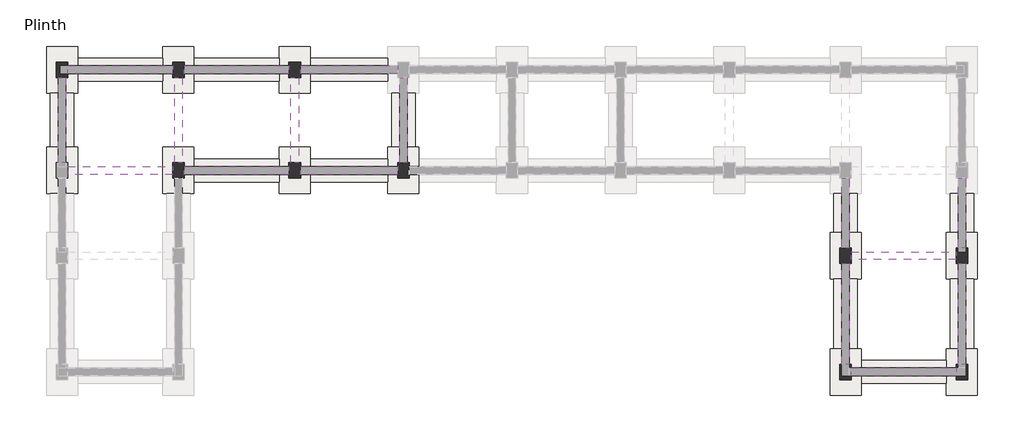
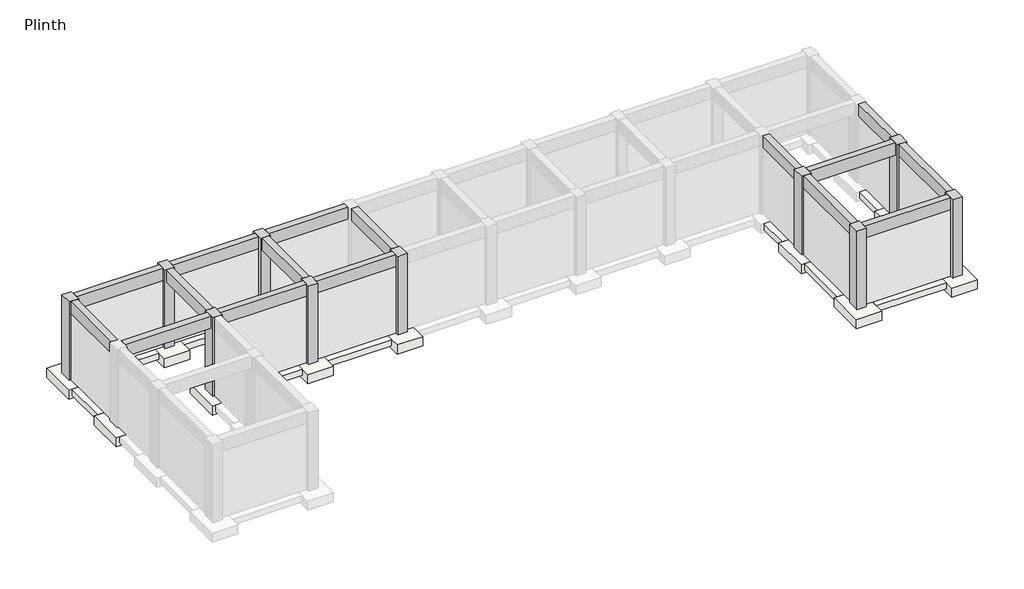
# One storey, part 2 of 3: 16 beams, 12 footings, 11 slabs, 10 columns.
"""IFC4 building model written with IfcOpenShell, lengths in millimetres."""

import ifcopenshell
import ifcopenshell.guid

model = None  # the IFC model being written
_history = None  # IfcOwnerHistory: only IFC2X3 demands one
_inside = {}  # id of a spatial element -> (the spatial element, [elements in it])
_under = {}  # id of a project, library or spatial element -> (it, [spatial elements below it])
_declared = {}  # id of a project -> (the project, [libraries it declares])
_typed = {}  # id of a type object -> (the type object, [elements of that type])
_made_of = {}  # id of a material, layer set ... -> (it, [elements and type objects made of it])


def new_model(schema):
    """Start an empty IFC model of exactly this schema.

    Asked for "IFC4X3", IfcOpenShell would pick the latest addendum, in which some entities
    have other attributes; the version numbers below select the first issue.
    IFC2X3 requires an IfcOwnerHistory on every rooted entity: one is made here for all.
    """
    global model, _history
    if schema == "IFC4X3":
        model = ifcopenshell.file(schema_version=(4, 3, 0, 0))
    else:
        model = ifcopenshell.file(schema=schema)
    _inside.clear()
    _under.clear()
    _declared.clear()
    _typed.clear()
    _made_of.clear()
    _history = None
    if model.schema == "IFC2X3":
        org = make("IfcOrganization", Name="unknown")
        user = make(
            "IfcPersonAndOrganization",
            ThePerson=make("IfcPerson", FamilyName="unknown"),
            TheOrganization=org,
        )
        app = make(
            "IfcApplication",
            ApplicationDeveloper=org,
            Version="unknown",
            ApplicationFullName="unknown",
            ApplicationIdentifier="unknown",
        )
        _history = make(
            "IfcOwnerHistory",
            OwningUser=user,
            OwningApplication=app,
            ChangeAction="ADDED",
            CreationDate=0,
        )
    return model


def make(cls, **values):
    """One entity of the class cls with the attributes given. An attribute that is None is left unset."""
    return model.create_entity(
        cls, **{name: value for name, value in values.items() if value is not None}
    )


def rooted(cls, **values):
    """An entity with a GlobalId (a new one), such as an element, a storey or a relation."""
    return make(cls, GlobalId=ifcopenshell.guid.new(), OwnerHistory=_history, **values)


def si_unit(unit_type, name, prefix=None):
    """IfcSIUnit, for example si_unit("LENGTHUNIT", "METRE", prefix="MILLI")."""
    return make("IfcSIUnit", UnitType=unit_type, Prefix=prefix, Name=name)


def assignment(units):
    """IfcUnitAssignment: the units of a project."""
    return None if units is None else make("IfcUnitAssignment", Units=units)


def point(xyz):
    """IfcCartesianPoint."""
    return None if xyz is None else make("IfcCartesianPoint", Coordinates=xyz)


def direction(xyz):
    """IfcDirection."""
    return None if xyz is None else make("IfcDirection", DirectionRatios=xyz)


def frame(location, z_axis=None, x_axis=None):
    """IfcAxis2Placement3D, a coordinate frame: its origin and axes. An axis left out is left unset."""
    return make(
        "IfcAxis2Placement3D",
        Location=point(location),
        Axis=direction(z_axis),
        RefDirection=direction(x_axis),
    )


def origin():
    """The frame at (0, 0, 0) with its axes left unset."""
    return frame((0.0, 0.0, 0.0))


def origin_with_axes():
    """The frame at (0, 0, 0) with the z axis (0, 0, 1) and the x axis (1, 0, 0) written out."""
    return frame((0.0, 0.0, 0.0), z_axis=(0.0, 0.0, 1.0), x_axis=(1.0, 0.0, 0.0))


def place(relative_to, where):
    """IfcLocalPlacement: puts the frame where relative to a parent placement (None: the world)."""
    return make(
        "IfcLocalPlacement", PlacementRelTo=relative_to, RelativePlacement=where
    )


def context(
    kind, dimensions, precision=None, world=None, true_north=None, identifier=None
):
    """IfcGeometricRepresentationContext, for example the 3D "Model" context."""
    return make(
        "IfcGeometricRepresentationContext",
        ContextIdentifier=identifier,
        ContextType=kind,
        CoordinateSpaceDimension=dimensions,
        Precision=precision,
        WorldCoordinateSystem=world,
        TrueNorth=true_north,
    )


def project(units=None, contexts=None):
    """IfcProject with its units and contexts."""
    return rooted(
        "IfcProject",
        Name="project",
        RepresentationContexts=contexts,
        UnitsInContext=assignment(units),
    )


def spatial(cls, under=None, at=None, **own):
    """A site, building, storey or space (cls), placed at a placement, below another one or the project."""
    s = rooted(cls, ObjectPlacement=at, **own)
    if under is not None:
        _under.setdefault(under.id(), (under, []))[1].append(s)
    return s


def polyline(points):
    """IfcPolyline through the points."""
    return make("IfcPolyline", Points=[point(p) for p in points])


def outline(outer, holes=None, kind="AREA"):
    """IfcArbitraryClosedProfileDef: a profile drawn as a closed curve; with holes, ...WithVoids."""
    if holes is None:
        return make("IfcArbitraryClosedProfileDef", ProfileType=kind, OuterCurve=outer)
    return make(
        "IfcArbitraryProfileDefWithVoids",
        ProfileType=kind,
        OuterCurve=outer,
        InnerCurves=holes,
    )


def extrude(swept, where, along, depth):
    """IfcExtrudedAreaSolid: the profile swept, set in the frame where, extruded along a direction by depth."""
    return make(
        "IfcExtrudedAreaSolid",
        SweptArea=swept,
        Position=where,
        ExtrudedDirection=direction(along),
        Depth=depth,
    )


def faces_of(points, faces, orient=None, outer=None):
    """IfcFace entities. A face is a list of loops; a loop is a list of indices into points, from 0.

    orient and outer hold one flag for each loop. By default every Orientation is true, the
    first loop of a face is its IfcFaceOuterBound and the others are IfcFaceBound.
    """
    made = []
    for i, loops in enumerate(faces):
        bounds = []
        for j, loop in enumerate(loops):
            is_outer = j == 0 if outer is None else outer[i][j]
            bounds.append(
                make(
                    "IfcFaceOuterBound" if is_outer else "IfcFaceBound",
                    Bound=make("IfcPolyLoop", Polygon=[points[k] for k in loop]),
                    Orientation=True if orient is None else orient[i][j],
                )
            )
        made.append(make("IfcFace", Bounds=bounds))
    return made


def faceted_brep(points, faces, orient=None, outer=None, voids=None):
    """IfcFacetedBrep: a solid bounded by flat faces; with voids (closed shells), ...WithVoids."""
    shared = [point(p) for p in points]
    hull = make("IfcClosedShell", CfsFaces=faces_of(shared, faces, orient, outer))
    if voids is None:
        return make("IfcFacetedBrep", Outer=hull)
    return make(
        "IfcFacetedBrepWithVoids",
        Outer=hull,
        Voids=[
            make(cls, CfsFaces=faces_of(shared, fs, o, b)) for cls, fs, o, b in voids
        ],
    )


def shape(context_of_items, identifier, shape_type, items):
    """IfcShapeRepresentation: the items that make up one representation, for example the "Body"."""
    return make(
        "IfcShapeRepresentation",
        ContextOfItems=context_of_items,
        RepresentationIdentifier=identifier,
        RepresentationType=shape_type,
        Items=items,
    )


def made_of(thing, what):
    """Note that an element or type object is made of a material, layer set ...; save() writes the relation."""
    if what is not None:
        _made_of.setdefault(what.id(), (what, []))[1].append(thing)
    return thing


def element(
    cls,
    number,
    at=None,
    inside=None,
    cuts=None,
    type_object=None,
    material=None,
    context=None,
    identifier="Body",
    shape_type=None,
    held_by="IfcProductDefinitionShape",
    body=None,
    shapes=None,
    **own,
):
    """One element of the class cls, such as IfcWall. Its Tag is "e" and its number.

    at: its placement. inside: the storey or other place that contains it. cuts: it is an
    opening in that element (IfcRelVoidsElement). A single representation is given by context,
    identifier, shape_type and body (its items); several are given by shapes. held_by: the class
    of the entity that holds the representations. save() writes the other relations.
    """
    e = rooted(cls, Tag="e%d" % number, ObjectPlacement=at, **own)
    if body is not None:
        shapes = [shape(context, identifier, shape_type, body)]
    if shapes is not None:
        e.Representation = make(held_by, Representations=shapes)
    if inside is not None:
        _inside.setdefault(inside.id(), (inside, []))[1].append(e)
    if cuts is not None:
        rooted(
            "IfcRelVoidsElement", RelatingBuildingElement=cuts, RelatedOpeningElement=e
        )
    if type_object is not None:
        _typed.setdefault(type_object.id(), (type_object, []))[1].append(e)
    return made_of(e, material)


def aggregate(whole, parts):
    """IfcRelAggregates: a whole, such as a stair, and the parts it consists of."""
    return rooted("IfcRelAggregates", RelatingObject=whole, RelatedObjects=parts)


def save(model, path):
    """Write the relations noted so far, then the file.

    IfcRelAggregates (storeys below a building ...), IfcRelContainedInSpatialStructure (elements
    in a storey), IfcRelDefinesByType, IfcRelAssociatesMaterial and IfcRelDeclares: one each for
    every whole, place, type object, material and project.
    """
    for whole, parts in _under.values():
        aggregate(whole, parts)
    for where, things in _inside.values():
        rooted(
            "IfcRelContainedInSpatialStructure",
            RelatedElements=things,
            RelatingStructure=where,
        )
    for kind, things in _typed.values():
        rooted("IfcRelDefinesByType", RelatedObjects=things, RelatingType=kind)
    for what, things in _made_of.values():
        rooted("IfcRelAssociatesMaterial", RelatedObjects=things, RelatingMaterial=what)
    for by, libraries in _declared.values():
        rooted("IfcRelDeclares", RelatingContext=by, RelatedDefinitions=libraries)
    model.write(path)


model = new_model("IFC4")

# Units and contexts
model_context = context("Model", 3, world=origin())
ifc_project = project(units=[si_unit("LENGTHUNIT", "METRE", prefix="MILLI")], contexts=[model_context])

# Site, building, storey
site = spatial("IfcSite", under=ifc_project)
building = spatial("IfcBuilding", under=site)
storey = spatial("IfcBuildingStorey", under=building, Name="Plinth", Elevation=304.8)

# Beams
placement = place(None, origin())
element("IfcBeam", 1, ObjectType="Concrete-Rectangular Beam : 12 x 24", at=placement, inside=storey, context=model_context, shape_type="SweptSolid", body=[
    extrude(outline(polyline([(-7030.7781752, 13902.9470864), (-7030.7781752, 14207.7470864), (-2915.9781752, 14207.7470864), (-2915.9781752, 13902.9470864), (-7030.7781752, 13902.9470864)])), frame((0.0, 0.0, 3657.6), z_axis=(0.0, 0.0, 1.0), x_axis=(1.0, 0.0, 0.0)), (0.0, 0.0, 1.0), 609.6),
])
element("IfcBeam", 2, ObjectType="Concrete-Rectangular Beam : 12 x 24", at=placement, inside=storey, context=model_context, shape_type="SweptSolid", body=[
    extrude(outline(polyline([(-2839.7781752, 17103.3470864), (-2534.9781752, 17103.3470864), (-2534.9781752, 14360.1470864), (-2839.7781752, 14360.1470864), (-2839.7781752, 17103.3470864)])), frame((0.0, 0.0, 3657.6), z_axis=(0.0, 0.0, 1.0), x_axis=(1.0, 0.0, 0.0)), (0.0, 0.0, 1.0), 609.6),
])
element("IfcBeam", 3, ObjectType="Concrete-Rectangular Beam : 12 x 24", at=placement, inside=storey, context=model_context, shape_type="SweptSolid", body=[
    extrude(outline(polyline([(-2839.7781752, 13750.5470864), (-2534.9781752, 13750.5470864), (-2534.9781752, 9788.1470864), (-2839.7781752, 9788.1470864), (-2839.7781752, 13750.5470864)])), frame((0.0, 0.0, 3657.6), z_axis=(0.0, 0.0, 1.0), x_axis=(1.0, 0.0, 0.0)), (0.0, 0.0, 1.0), 609.6),
])
element("IfcBeam", 4, ObjectType="Concrete-Rectangular Beam : 12 x 24", at=placement, inside=storey, context=model_context, shape_type="SweptSolid", body=[
    extrude(outline(polyline([(-7411.7781752, 17103.3470864), (-7106.9781752, 17103.3470864), (-7106.9781752, 14360.1470864), (-7411.7781752, 14360.1470864), (-7411.7781752, 17103.3470864)])), frame((0.0, 0.0, 3657.6), z_axis=(0.0, 0.0, 1.0), x_axis=(1.0, 0.0, 0.0)), (0.0, 0.0, 1.0), 609.6),
])
element("IfcBeam", 5, ObjectType="Concrete-Rectangular Beam : 12 x 24", at=placement, inside=storey, context=model_context, shape_type="SweptSolid", body=[
    extrude(outline(polyline([(-7411.7781752, 13750.5470864), (-7106.9781752, 13750.5470864), (-7106.9781752, 9788.1470864), (-7411.7781752, 9788.1470864), (-7411.7781752, 13750.5470864)])), frame((0.0, 0.0, 3657.6), z_axis=(0.0, 0.0, 1.0), x_axis=(1.0, 0.0, 0.0)), (0.0, 0.0, 1.0), 609.6),
])
element("IfcBeam", 6, ObjectType="Concrete-Rectangular Beam : 12 x 24", at=placement, inside=storey, context=model_context, shape_type="SweptSolid", body=[
    extrude(outline(polyline([(-7030.7781752, 9330.9470864), (-7030.7781752, 9635.7470864), (-2915.9781752, 9635.7470864), (-2915.9781752, 9330.9470864), (-7030.7781752, 9330.9470864)])), frame((0.0, 0.0, 3657.6), z_axis=(0.0, 0.0, 1.0), x_axis=(1.0, 0.0, 0.0)), (0.0, 0.0, 1.0), 609.6),
])
element("IfcBeam", 7, ObjectType="Concrete-Rectangular Beam : 12 x 24", at=placement, inside=storey, context=model_context, shape_type="SweptSolid", body=[
    extrude(outline(polyline([(-28747.7781752, 17712.9470864), (-29052.5781752, 17712.9470864), (-29052.5781752, 21065.7470864), (-28747.7781752, 21065.7470864), (-28747.7781752, 17712.9470864)])), frame((0.0, 0.0, 3657.6), z_axis=(0.0, 0.0, 1.0), x_axis=(1.0, 0.0, 0.0)), (0.0, 0.0, 1.0), 609.6),
])
element("IfcBeam", 8, ObjectType="Concrete-Rectangular Beam : 12 x 24", at=placement, inside=storey, context=model_context, shape_type="SweptSolid", body=[
    extrude(outline(polyline([(-33624.5781752, 21065.7470864), (-33319.7781752, 21065.7470864), (-33319.7781752, 17712.9470864), (-33624.5781752, 17712.9470864), (-33624.5781752, 21065.7470864)])), frame((0.0, 0.0, 3657.6), z_axis=(0.0, 0.0, 1.0), x_axis=(1.0, 0.0, 0.0)), (0.0, 0.0, 1.0), 609.6),
])
element("IfcBeam", 9, ObjectType="Concrete-Rectangular Beam : 12 x 24", at=placement, inside=storey, context=model_context, shape_type="SweptSolid", body=[
    extrude(outline(polyline([(-33700.7781752, 17560.5470864), (-33700.7781752, 17255.7470864), (-37815.5781752, 17255.7470864), (-37815.5781752, 17560.5470864), (-33700.7781752, 17560.5470864)])), frame((0.0, 0.0, 3657.6), z_axis=(0.0, 0.0, 1.0), x_axis=(1.0, 0.0, 0.0)), (0.0, 0.0, 1.0), 609.6),
])
element("IfcBeam", 10, ObjectType="Concrete-Rectangular Beam : 12 x 24", at=placement, inside=storey, context=model_context, shape_type="SweptSolid", body=[
    extrude(outline(polyline([(-24861.5781752, 21522.9470864), (-24861.5781752, 21218.1470864), (-28671.5781752, 21218.1470864), (-28671.5781752, 21522.9470864), (-24861.5781752, 21522.9470864)])), frame((0.0, 0.0, 3657.6), z_axis=(0.0, 0.0, 1.0), x_axis=(1.0, 0.0, 0.0)), (0.0, 0.0, 1.0), 609.6),
])
element("IfcBeam", 11, ObjectType="Concrete-Rectangular Beam : 12 x 24", at=placement, inside=storey, context=model_context, shape_type="SweptSolid", body=[
    extrude(outline(polyline([(-29128.7781752, 21522.9470864), (-29128.7781752, 21218.1470864), (-33243.5781752, 21218.1470864), (-33243.5781752, 21522.9470864), (-29128.7781752, 21522.9470864)])), frame((0.0, 0.0, 3657.6), z_axis=(0.0, 0.0, 1.0), x_axis=(1.0, 0.0, 0.0)), (0.0, 0.0, 1.0), 609.6),
])
element("IfcBeam", 12, ObjectType="Concrete-Rectangular Beam : 12 x 24", at=placement, inside=storey, context=model_context, shape_type="SweptSolid", body=[
    extrude(outline(polyline([(-33700.7781752, 21522.9470864), (-33700.7781752, 21218.1470864), (-37815.5781752, 21218.1470864), (-37815.5781752, 21522.9470864), (-33700.7781752, 21522.9470864)])), frame((0.0, 0.0, 3657.6), z_axis=(0.0, 0.0, 1.0), x_axis=(1.0, 0.0, 0.0)), (0.0, 0.0, 1.0), 609.6),
])
element("IfcBeam", 13, ObjectType="Concrete-Rectangular Beam : 12 x 24", at=placement, inside=storey, context=model_context, shape_type="SweptSolid", body=[
    extrude(outline(polyline([(-24785.3781752, 21065.7470864), (-24480.5781752, 21065.7470864), (-24480.5781752, 17712.9470864), (-24785.3781752, 17712.9470864), (-24785.3781752, 21065.7470864)])), frame((0.0, 0.0, 3657.6), z_axis=(0.0, 0.0, 1.0), x_axis=(1.0, 0.0, 0.0)), (0.0, 0.0, 1.0), 609.6),
])
element("IfcBeam", 14, ObjectType="Concrete-Rectangular Beam : 12 x 24", at=placement, inside=storey, context=model_context, shape_type="SweptSolid", body=[
    extrude(outline(polyline([(-38196.5781752, 21065.7470864), (-37891.7781752, 21065.7470864), (-37891.7781752, 17712.9470864), (-38196.5781752, 17712.9470864), (-38196.5781752, 21065.7470864)])), frame((0.0, 0.0, 3657.6), z_axis=(0.0, 0.0, 1.0), x_axis=(1.0, 0.0, 0.0)), (0.0, 0.0, 1.0), 609.6),
])
element("IfcBeam", 15, ObjectType="Concrete-Rectangular Beam : 12 x 24", at=placement, inside=storey, context=model_context, shape_type="SweptSolid", body=[
    extrude(outline(polyline([(-29128.7781752, 17560.5470864), (-29128.7781752, 17255.7470864), (-33243.5781752, 17255.7470864), (-33243.5781752, 17560.5470864), (-29128.7781752, 17560.5470864)])), frame((0.0, 0.0, 3657.6), z_axis=(0.0, 0.0, 1.0), x_axis=(1.0, 0.0, 0.0)), (0.0, 0.0, 1.0), 609.6),
])
element("IfcBeam", 16, ObjectType="Concrete-Rectangular Beam : 12 x 24", at=placement, inside=storey, context=model_context, shape_type="SweptSolid", body=[
    extrude(outline(polyline([(-24861.5781752, 17560.5470864), (-24861.5781752, 17255.7470864), (-28671.5781752, 17255.7470864), (-28671.5781752, 17560.5470864), (-24861.5781752, 17560.5470864)])), frame((0.0, 0.0, 3657.6), z_axis=(0.0, 0.0, 1.0), x_axis=(1.0, 0.0, 0.0)), (0.0, 0.0, 1.0), 609.6),
])

# Columns
element("IfcColumn", 17, ObjectType="Concrete-Rectangular-Column : 18 x 24", at=placement, inside=storey, context=model_context, shape_type="Brep", body=[
    faceted_brep([(-7030.7781752, 14360.1470864, 304.8), (-7030.7781752, 13750.5470864, 304.8), (-7106.9781752, 13750.5470864, 304.8), (-7411.7781752, 13750.5470864, 304.8), (-7487.9781752, 13750.5470864, 304.8), (-7487.9781752, 14360.1470864, 304.8), (-7411.7781752, 14360.1470864, 304.8), (-7106.9781752, 14360.1470864, 304.8), (-7030.7781752, 14360.1470864, 4267.2), (-7030.7781752, 13750.5470864, 4267.2), (-7487.9781752, 13750.5470864, 4267.2), (-7487.9781752, 14360.1470864, 4267.2)], [[[0, 1, 2, 3, 4, 5, 6, 7]], [[8, 9, 1, 0]], [[9, 10, 4, 3, 2, 1]], [[10, 11, 5, 4]], [[11, 8, 0, 7, 6, 5]], [[8, 11, 10, 9]]]),
])
element("IfcColumn", 18, ObjectType="Concrete-Rectangular-Column : 18 x 24", at=placement, inside=storey, context=model_context, shape_type="Brep", body=[
    faceted_brep([(-2458.7781752, 14360.1470864, 304.8), (-2458.7781752, 13750.5470864, 304.8), (-2534.9781752, 13750.5470864, 304.8), (-2839.7781752, 13750.5470864, 304.8), (-2915.9781752, 13750.5470864, 304.8), (-2915.9781752, 14360.1470864, 304.8), (-2839.7781752, 14360.1470864, 304.8), (-2839.7781752, 14207.7470864, 304.8), (-2534.9781752, 14207.7470864, 304.8), (-2534.9781752, 14360.1470864, 304.8), (-2458.7781752, 14360.1470864, 4267.2), (-2458.7781752, 13750.5470864, 4267.2), (-2915.9781752, 13750.5470864, 4267.2), (-2915.9781752, 14360.1470864, 4267.2), (-2534.9781752, 14360.1470864, 3657.6), (-2839.7781752, 14360.1470864, 3657.6), (-2839.7781752, 14207.7470864, 3657.6), (-2534.9781752, 14207.7470864, 3657.6)], [[[0, 1, 2, 3, 4, 5, 6, 7, 8, 9]], [[1, 0, 10, 11]], [[4, 3, 2, 1, 11, 12]], [[5, 4, 12, 13]], [[10, 0, 9, 14, 15, 6, 5, 13]], [[11, 10, 13, 12]], [[16, 7, 6, 15]], [[17, 16, 15, 14]], [[17, 8, 7, 16]], [[8, 17, 14, 9]]]),
])
element("IfcColumn", 19, ObjectType="Concrete-Rectangular-Column : 18 x 24", at=placement, inside=storey, context=model_context, shape_type="Brep", body=[
    faceted_brep([(-7106.9781752, 9788.1470864, 304.8), (-7030.7781752, 9788.1470864, 304.8), (-7030.7781752, 9635.7470864, 304.8), (-7106.9781752, 9635.7470864, 304.8), (-7030.7781752, 9788.1470864, 4267.2), (-7030.7781752, 9178.5470864, 4267.2), (-7030.7781752, 9178.5470864, 304.8), (-7030.7781752, 9330.9470864, 304.8), (-7030.7781752, 9330.9470864, 3657.6), (-7030.7781752, 9635.7470864, 3657.6), (-7487.9781752, 9178.5470864, 304.8), (-7487.9781752, 9178.5470864, 4267.2), (-7487.9781752, 9788.1470864, 304.8), (-7487.9781752, 9788.1470864, 4267.2), (-7106.9781752, 9788.1470864, 3657.6), (-7411.7781752, 9788.1470864, 3657.6), (-7411.7781752, 9788.1470864, 304.8), (-7411.7781752, 9330.9470864, 3657.6), (-7411.7781752, 9330.9470864, 304.8), (-7106.9781752, 9635.7470864, 3657.6), (-7106.9781752, 9330.9470864, 3657.6), (-7106.9781752, 9330.9470864, 304.8)], [[[0, 1, 2, 3]], [[4, 5, 6, 7, 8, 9, 2, 1]], [[10, 6, 5, 11]], [[12, 10, 11, 13]], [[4, 1, 0, 14, 15, 16, 12, 13]], [[5, 4, 13, 11]], [[17, 18, 16, 15]], [[14, 0, 3, 19]], [[18, 17, 20, 8, 7, 21]], [[9, 19, 3, 2]], [[8, 20, 17, 15, 14, 19, 9]], [[6, 10, 12, 16, 18, 21, 7]]]),
])
element("IfcColumn", 20, ObjectType="Concrete-Rectangular-Column : 18 x 24", at=placement, inside=storey, context=model_context, shape_type="Brep", body=[
    faceted_brep([(-2915.9781752, 9635.7470864, 304.8), (-2915.9781752, 9788.1470864, 304.8), (-2839.7781752, 9788.1470864, 304.8), (-2839.7781752, 9635.7470864, 304.8), (-2458.7781752, 9178.5470864, 304.8), (-2458.7781752, 9788.1470864, 304.8), (-2458.7781752, 9788.1470864, 4267.2), (-2458.7781752, 9178.5470864, 4267.2), (-2915.9781752, 9178.5470864, 304.8), (-2915.9781752, 9178.5470864, 4267.2), (-2915.9781752, 9788.1470864, 4267.2), (-2915.9781752, 9635.7470864, 3657.6), (-2915.9781752, 9330.9470864, 3657.6), (-2915.9781752, 9330.9470864, 304.8), (-2534.9781752, 9788.1470864, 304.8), (-2534.9781752, 9788.1470864, 3657.6), (-2839.7781752, 9788.1470864, 3657.6), (-2534.9781752, 9330.9470864, 3657.6), (-2534.9781752, 9330.9470864, 304.8), (-2839.7781752, 9635.7470864, 3657.6), (-2534.9781752, 9635.7470864, 3657.6), (-2534.9781752, 9635.7470864, 304.8)], [[[0, 1, 2, 3]], [[4, 5, 6, 7]], [[8, 4, 7, 9]], [[8, 9, 10, 1, 0, 11, 12, 13]], [[6, 5, 14, 15, 16, 2, 1, 10]], [[7, 6, 10, 9]], [[12, 17, 18, 13]], [[11, 0, 3, 19]], [[17, 12, 11, 19, 16, 15, 20]], [[18, 17, 20, 15, 14, 21]], [[16, 19, 3, 2]], [[5, 4, 8, 13, 18, 21, 14]]]),
])
element("IfcColumn", 21, ObjectType="Concrete-Rectangular-Column : 18 x 24", at=placement, inside=storey, context=model_context, shape_type="Brep", body=[
    faceted_brep([(-29128.7781752, 21675.3470864, 304.8), (-28671.5781752, 21675.3470864, 304.8), (-28671.5781752, 21522.9470864, 304.8), (-28671.5781752, 21218.1470864, 304.8), (-28671.5781752, 21065.7470864, 304.8), (-29128.7781752, 21065.7470864, 304.8), (-29128.7781752, 21218.1470864, 304.8), (-29128.7781752, 21522.9470864, 304.8), (-29128.7781752, 21675.3470864, 4267.2), (-29128.7781752, 21065.7470864, 4267.2), (-28671.5781752, 21065.7470864, 4267.2), (-28671.5781752, 21675.3470864, 4267.2)], [[[0, 1, 2, 3, 4, 5, 6, 7]], [[8, 0, 7, 6, 5, 9]], [[9, 5, 4, 10]], [[10, 4, 3, 2, 1, 11]], [[11, 1, 0, 8]], [[8, 9, 10, 11]]]),
])
element("IfcColumn", 22, ObjectType="Concrete-Rectangular-Column : 18 x 24", at=placement, inside=storey, context=model_context, shape_type="Brep", body=[
    faceted_brep([(-33700.7781752, 21675.3470864, 304.8), (-33243.5781752, 21675.3470864, 304.8), (-33243.5781752, 21522.9470864, 304.8), (-33243.5781752, 21218.1470864, 304.8), (-33243.5781752, 21065.7470864, 304.8), (-33700.7781752, 21065.7470864, 304.8), (-33700.7781752, 21218.1470864, 304.8), (-33700.7781752, 21522.9470864, 304.8), (-33700.7781752, 21675.3470864, 4267.2), (-33700.7781752, 21065.7470864, 4267.2), (-33243.5781752, 21065.7470864, 4267.2), (-33243.5781752, 21675.3470864, 4267.2)], [[[0, 1, 2, 3, 4, 5, 6, 7]], [[8, 0, 7, 6, 5, 9]], [[9, 5, 4, 10]], [[10, 4, 3, 2, 1, 11]], [[11, 1, 0, 8]], [[8, 9, 10, 11]]]),
])
element("IfcColumn", 23, ObjectType="Concrete-Rectangular-Column : 18 x 24", at=placement, inside=storey, context=model_context, shape_type="Brep", body=[
    faceted_brep([(-38272.7781752, 21065.7470864, 304.8), (-38272.7781752, 21675.3470864, 304.8), (-37815.5781752, 21675.3470864, 304.8), (-37815.5781752, 21522.9470864, 304.8), (-38120.3781752, 21522.9470864, 304.8), (-38120.3781752, 21218.1470864, 304.8), (-37815.5781752, 21218.1470864, 304.8), (-37815.5781752, 21065.7470864, 304.8), (-37891.7781752, 21065.7470864, 304.8), (-38196.5781752, 21065.7470864, 304.8), (-38272.7781752, 21065.7470864, 4267.2), (-38272.7781752, 21675.3470864, 4267.2), (-37815.5781752, 21065.7470864, 4267.2), (-37815.5781752, 21218.1470864, 3657.6), (-37815.5781752, 21522.9470864, 3657.6), (-37815.5781752, 21675.3470864, 4267.2), (-38120.3781752, 21522.9470864, 3657.6), (-38120.3781752, 21218.1470864, 3657.6)], [[[0, 1, 2, 3, 4, 5, 6, 7, 8, 9]], [[1, 0, 10, 11]], [[0, 9, 8, 7, 12, 10]], [[12, 7, 6, 13, 14, 3, 2, 15]], [[2, 1, 11, 15]], [[11, 10, 12, 15]], [[16, 4, 3, 14]], [[5, 17, 13, 6]], [[4, 16, 17, 5]], [[17, 16, 14, 13]]]),
])
element("IfcColumn", 24, ObjectType="Concrete-Rectangular-Column : 18 x 24", at=placement, inside=storey, context=model_context, shape_type="Brep", body=[
    faceted_brep([(-24861.5781752, 17712.9470864, 304.8), (-24785.3781752, 17712.9470864, 304.8), (-24480.5781752, 17712.9470864, 304.8), (-24404.3781752, 17712.9470864, 304.8), (-24404.3781752, 17560.5470864, 304.8), (-24404.3781752, 17255.7470864, 304.8), (-24404.3781752, 17103.3470864, 304.8), (-24861.5781752, 17103.3470864, 304.8), (-24861.5781752, 17255.7470864, 304.8), (-24861.5781752, 17560.5470864, 304.8), (-24861.5781752, 17712.9470864, 4267.2), (-24861.5781752, 17103.3470864, 4267.2), (-24404.3781752, 17103.3470864, 4267.2), (-24404.3781752, 17712.9470864, 4267.2)], [[[0, 1, 2, 3, 4, 5, 6, 7, 8, 9]], [[10, 0, 9, 8, 7, 11]], [[11, 7, 6, 12]], [[12, 6, 5, 4, 3, 13]], [[13, 3, 2, 1, 0, 10]], [[10, 11, 12, 13]]]),
])
element("IfcColumn", 25, ObjectType="Concrete-Rectangular-Column : 18 x 24", at=placement, inside=storey, context=model_context, shape_type="Brep", body=[
    faceted_brep([(-29128.7781752, 17712.9470864, 304.8), (-28671.5781752, 17712.9470864, 304.8), (-28671.5781752, 17560.5470864, 304.8), (-28671.5781752, 17255.7470864, 304.8), (-28671.5781752, 17103.3470864, 304.8), (-29128.7781752, 17103.3470864, 304.8), (-29128.7781752, 17255.7470864, 304.8), (-29128.7781752, 17560.5470864, 304.8), (-29128.7781752, 17712.9470864, 4267.2), (-29128.7781752, 17103.3470864, 4267.2), (-28671.5781752, 17103.3470864, 4267.2), (-28671.5781752, 17712.9470864, 4267.2)], [[[0, 1, 2, 3, 4, 5, 6, 7]], [[8, 0, 7, 6, 5, 9]], [[9, 5, 4, 10]], [[10, 4, 3, 2, 1, 11]], [[11, 1, 0, 8]], [[8, 9, 10, 11]]]),
])
element("IfcColumn", 26, ObjectType="Concrete-Rectangular-Column : 18 x 24", at=placement, inside=storey, context=model_context, shape_type="Brep", body=[
    faceted_brep([(-33700.7781752, 17712.9470864, 304.8), (-33243.5781752, 17712.9470864, 304.8), (-33243.5781752, 17560.5470864, 304.8), (-33243.5781752, 17255.7470864, 304.8), (-33243.5781752, 17103.3470864, 304.8), (-33319.7781752, 17103.3470864, 304.8), (-33624.5781752, 17103.3470864, 304.8), (-33700.7781752, 17103.3470864, 304.8), (-33700.7781752, 17712.9470864, 4267.2), (-33700.7781752, 17103.3470864, 4267.2), (-33243.5781752, 17103.3470864, 4267.2), (-33243.5781752, 17712.9470864, 4267.2)], [[[0, 1, 2, 3, 4, 5, 6, 7]], [[8, 0, 7, 9]], [[9, 7, 6, 5, 4, 10]], [[10, 4, 3, 2, 1, 11]], [[11, 1, 0, 8]], [[8, 9, 10, 11]]]),
])

# Footings
element("IfcFooting", 27, ObjectType="Bearing Footing - 36\" x 12\"", at=placement, inside=storey, context=model_context, shape_type="SweptSolid", body=[
    extrude(outline(polyline([(-3144.5781752, 16493.7470864), (-2230.1781752, 16493.7470864), (-2230.1781752, 14969.7470864), (-3144.5781752, 14969.7470864), (-3144.5781752, 16493.7470864)])), origin_with_axes(), (0.0, 0.0, 1.0), 304.8),
])
element("IfcFooting", 28, ObjectType="Bearing Footing - 36\" x 12\"", at=placement, inside=storey, context=model_context, shape_type="SweptSolid", body=[
    extrude(outline(polyline([(-3144.5781752, 13140.9470864), (-2230.1781752, 13140.9470864), (-2230.1781752, 10397.7470864), (-3144.5781752, 10397.7470864), (-3144.5781752, 13140.9470864)])), origin_with_axes(), (0.0, 0.0, 1.0), 304.8),
])
element("IfcFooting", 29, ObjectType="Bearing Footing - 36\" x 12\"", at=placement, inside=storey, context=model_context, shape_type="SweptSolid", body=[
    extrude(outline(polyline([(-6649.7781752, 9026.1470864), (-6649.7781752, 9940.5470864), (-3296.9781752, 9940.5470864), (-3296.9781752, 9026.1470864), (-6649.7781752, 9026.1470864)])), origin_with_axes(), (0.0, 0.0, 1.0), 304.8),
])
element("IfcFooting", 30, ObjectType="Bearing Footing - 36\" x 12\"", at=placement, inside=storey, context=model_context, shape_type="SweptSolid", body=[
    extrude(outline(polyline([(-7716.5781752, 13140.9470864), (-6802.1781752, 13140.9470864), (-6802.1781752, 10397.7470864), (-7716.5781752, 10397.7470864), (-7716.5781752, 13140.9470864)])), origin_with_axes(), (0.0, 0.0, 1.0), 304.8),
])
element("IfcFooting", 31, ObjectType="Bearing Footing - 36\" x 12\"", at=placement, inside=storey, context=model_context, shape_type="SweptSolid", body=[
    extrude(outline(polyline([(-7716.5781752, 16493.7470864), (-6802.1781752, 16493.7470864), (-6802.1781752, 14969.7470864), (-7716.5781752, 14969.7470864), (-7716.5781752, 16493.7470864)])), origin_with_axes(), (0.0, 0.0, 1.0), 304.8),
])
element("IfcFooting", 32, ObjectType="Bearing Footing - 36\" x 12\"", at=placement, inside=storey, context=model_context, shape_type="SweptSolid", body=[
    extrude(outline(polyline([(-25242.5781752, 21827.7470864), (-25242.5781752, 20913.3470864), (-28290.5781752, 20913.3470864), (-28290.5781752, 21827.7470864), (-25242.5781752, 21827.7470864)])), origin_with_axes(), (0.0, 0.0, 1.0), 304.8),
])
element("IfcFooting", 33, ObjectType="Bearing Footing - 36\" x 12\"", at=placement, inside=storey, context=model_context, shape_type="SweptSolid", body=[
    extrude(outline(polyline([(-29509.7781752, 21827.7470864), (-29509.7781752, 20913.3470864), (-32862.5781752, 20913.3470864), (-32862.5781752, 21827.7470864), (-29509.7781752, 21827.7470864)])), origin_with_axes(), (0.0, 0.0, 1.0), 304.8),
])
element("IfcFooting", 34, ObjectType="Bearing Footing - 36\" x 12\"", at=placement, inside=storey, context=model_context, shape_type="SweptSolid", body=[
    extrude(outline(polyline([(-34081.7781752, 21827.7470864), (-34081.7781752, 20913.3470864), (-37434.5781752, 20913.3470864), (-37434.5781752, 21827.7470864), (-34081.7781752, 21827.7470864)])), origin_with_axes(), (0.0, 0.0, 1.0), 304.8),
])
element("IfcFooting", 35, ObjectType="Bearing Footing - 36\" x 12\"", at=placement, inside=storey, context=model_context, shape_type="SweptSolid", body=[
    extrude(outline(polyline([(-38501.3781752, 20456.1470864), (-37586.9781752, 20456.1470864), (-37586.9781752, 18322.5470864), (-38501.3781752, 18322.5470864), (-38501.3781752, 20456.1470864)])), origin_with_axes(), (0.0, 0.0, 1.0), 304.8),
])
element("IfcFooting", 36, ObjectType="Bearing Footing - 36\" x 12\"", at=placement, inside=storey, context=model_context, shape_type="SweptSolid", body=[
    extrude(outline(polyline([(-29509.7781752, 17865.3470864), (-29509.7781752, 16950.9470864), (-32862.5781752, 16950.9470864), (-32862.5781752, 17865.3470864), (-29509.7781752, 17865.3470864)])), origin_with_axes(), (0.0, 0.0, 1.0), 304.8),
])
element("IfcFooting", 37, ObjectType="Bearing Footing - 36\" x 12\"", at=placement, inside=storey, context=model_context, shape_type="SweptSolid", body=[
    extrude(outline(polyline([(-25242.5781752, 17865.3470864), (-25242.5781752, 16950.9470864), (-28290.5781752, 16950.9470864), (-28290.5781752, 17865.3470864), (-25242.5781752, 17865.3470864)])), origin_with_axes(), (0.0, 0.0, 1.0), 304.8),
])
element("IfcFooting", 38, ObjectType="Bearing Footing - 36\" x 12\"", at=placement, inside=storey, context=model_context, shape_type="SweptSolid", body=[
    extrude(outline(polyline([(-25090.1781752, 20456.1470864), (-24175.7781752, 20456.1470864), (-24175.7781752, 18322.5470864), (-25090.1781752, 18322.5470864), (-25090.1781752, 20456.1470864)])), origin_with_axes(), (0.0, 0.0, 1.0), 304.8),
])

# Slabs
element("IfcSlab", 39, ObjectType="Footing-Rectangular : 72\" x 48\" x 18\"", at=placement, inside=storey, context=model_context, shape_type="Brep", body=[
    faceted_brep([(-7868.9781752, 13140.9470864, 304.8), (-7716.5781752, 13140.9470864, 304.8), (-6802.1781752, 13140.9470864, 304.8), (-6649.7781752, 13140.9470864, 304.8), (-6649.7781752, 14969.7470864, 304.8), (-6802.1781752, 14969.7470864, 304.8), (-7716.5781752, 14969.7470864, 304.8), (-7868.9781752, 14969.7470864, 304.8), (-7868.9781752, 13140.9470864, -152.4), (-7868.9781752, 14969.7470864, -152.4), (-6649.7781752, 14969.7470864, -152.4), (-6649.7781752, 13140.9470864, -152.4)], [[[0, 1, 2, 3, 4, 5, 6, 7]], [[8, 9, 10, 11]], [[3, 2, 1, 0, 8, 11]], [[4, 3, 11, 10]], [[7, 6, 5, 4, 10, 9]], [[0, 7, 9, 8]]]),
])
element("IfcSlab", 40, ObjectType="Footing-Rectangular : 72\" x 48\" x 18\"", at=placement, inside=storey, context=model_context, shape_type="Brep", body=[
    faceted_brep([(-3296.9781752, 13140.9470864, 304.8), (-3144.5781752, 13140.9470864, 304.8), (-2230.1781752, 13140.9470864, 304.8), (-2077.7781752, 13140.9470864, 304.8), (-2077.7781752, 14969.7470864, 304.8), (-2230.1781752, 14969.7470864, 304.8), (-3144.5781752, 14969.7470864, 304.8), (-3296.9781752, 14969.7470864, 304.8), (-3296.9781752, 13140.9470864, -152.4), (-3296.9781752, 14969.7470864, -152.4), (-2077.7781752, 14969.7470864, -152.4), (-2077.7781752, 13140.9470864, -152.4)], [[[0, 1, 2, 3, 4, 5, 6, 7]], [[8, 9, 10, 11]], [[3, 2, 1, 0, 8, 11]], [[4, 3, 11, 10]], [[7, 6, 5, 4, 10, 9]], [[0, 7, 9, 8]]]),
])
element("IfcSlab", 41, ObjectType="Footing-Rectangular : 72\" x 48\" x 18\"", at=placement, inside=storey, context=model_context, shape_type="Brep", body=[
    faceted_brep([(-7868.9781752, 8568.9470864, 304.8), (-6649.7781752, 8568.9470864, 304.8), (-6649.7781752, 9026.1470864, 304.8), (-6649.7781752, 9940.5470864, 304.8), (-6649.7781752, 10397.7470864, 304.8), (-6802.1781752, 10397.7470864, 304.8), (-7716.5781752, 10397.7470864, 304.8), (-7868.9781752, 10397.7470864, 304.8), (-7868.9781752, 8568.9470864, -152.4), (-7868.9781752, 10397.7470864, -152.4), (-6649.7781752, 10397.7470864, -152.4), (-6649.7781752, 8568.9470864, -152.4)], [[[0, 1, 2, 3, 4, 5, 6, 7]], [[8, 9, 10, 11]], [[1, 0, 8, 11]], [[4, 3, 2, 1, 11, 10]], [[7, 6, 5, 4, 10, 9]], [[0, 7, 9, 8]]]),
])
element("IfcSlab", 42, ObjectType="Footing-Rectangular : 72\" x 48\" x 18\"", at=placement, inside=storey, context=model_context, shape_type="Brep", body=[
    faceted_brep([(-3296.9781752, 8568.9470864, 304.8), (-2077.7781752, 8568.9470864, 304.8), (-2077.7781752, 10397.7470864, 304.8), (-2230.1781752, 10397.7470864, 304.8), (-3144.5781752, 10397.7470864, 304.8), (-3296.9781752, 10397.7470864, 304.8), (-3296.9781752, 9940.5470864, 304.8), (-3296.9781752, 9026.1470864, 304.8), (-3296.9781752, 8568.9470864, -152.4), (-3296.9781752, 10397.7470864, -152.4), (-2077.7781752, 10397.7470864, -152.4), (-2077.7781752, 8568.9470864, -152.4)], [[[0, 1, 2, 3, 4, 5, 6, 7]], [[8, 9, 10, 11]], [[1, 0, 8, 11]], [[2, 1, 11, 10]], [[5, 4, 3, 2, 10, 9]], [[0, 7, 6, 5, 9, 8]]]),
])
element("IfcSlab", 43, ObjectType="Footing-Rectangular : 72\" x 48\" x 18\"", at=placement, inside=storey, context=model_context, shape_type="Brep", body=[
    faceted_brep([(-28290.5781752, 20456.1470864, 304.8), (-28290.5781752, 20913.3470864, 304.8), (-28290.5781752, 21827.7470864, 304.8), (-28290.5781752, 22284.9470864, 304.8), (-29509.7781752, 22284.9470864, 304.8), (-29509.7781752, 21827.7470864, 304.8), (-29509.7781752, 20913.3470864, 304.8), (-29509.7781752, 20456.1470864, 304.8), (-28290.5781752, 20456.1470864, -152.4), (-29509.7781752, 20456.1470864, -152.4), (-29509.7781752, 22284.9470864, -152.4), (-28290.5781752, 22284.9470864, -152.4)], [[[0, 1, 2, 3, 4, 5, 6, 7]], [[8, 9, 10, 11]], [[7, 9, 8, 0]], [[4, 10, 9, 7, 6, 5]], [[3, 11, 10, 4]], [[0, 8, 11, 3, 2, 1]]]),
])
element("IfcSlab", 44, ObjectType="Footing-Rectangular : 72\" x 48\" x 18\"", at=placement, inside=storey, context=model_context, shape_type="Brep", body=[
    faceted_brep([(-32862.5781752, 20456.1470864, 304.8), (-32862.5781752, 20913.3470864, 304.8), (-32862.5781752, 21827.7470864, 304.8), (-32862.5781752, 22284.9470864, 304.8), (-34081.7781752, 22284.9470864, 304.8), (-34081.7781752, 21827.7470864, 304.8), (-34081.7781752, 20913.3470864, 304.8), (-34081.7781752, 20456.1470864, 304.8), (-32862.5781752, 20456.1470864, -152.4), (-34081.7781752, 20456.1470864, -152.4), (-34081.7781752, 22284.9470864, -152.4), (-32862.5781752, 22284.9470864, -152.4)], [[[0, 1, 2, 3, 4, 5, 6, 7]], [[8, 9, 10, 11]], [[7, 9, 8, 0]], [[4, 10, 9, 7, 6, 5]], [[3, 11, 10, 4]], [[0, 8, 11, 3, 2, 1]]]),
])
element("IfcSlab", 45, ObjectType="Footing-Rectangular : 72\" x 48\" x 18\"", at=placement, inside=storey, context=model_context, shape_type="Brep", body=[
    faceted_brep([(-37434.5781752, 20456.1470864, 304.8), (-37434.5781752, 20913.3470864, 304.8), (-37434.5781752, 21827.7470864, 304.8), (-37434.5781752, 22284.9470864, 304.8), (-38653.7781752, 22284.9470864, 304.8), (-38653.7781752, 20456.1470864, 304.8), (-38501.3781752, 20456.1470864, 304.8), (-37586.9781752, 20456.1470864, 304.8), (-37434.5781752, 20456.1470864, -152.4), (-38653.7781752, 20456.1470864, -152.4), (-38653.7781752, 22284.9470864, -152.4), (-37434.5781752, 22284.9470864, -152.4)], [[[0, 1, 2, 3, 4, 5, 6, 7]], [[8, 9, 10, 11]], [[5, 9, 8, 0, 7, 6]], [[4, 10, 9, 5]], [[3, 11, 10, 4]], [[0, 8, 11, 3, 2, 1]]]),
])
element("IfcSlab", 46, ObjectType="Footing-Rectangular : 72\" x 48\" x 18\"", at=placement, inside=storey, context=model_context, shape_type="Brep", body=[
    faceted_brep([(-24023.3781752, 16493.7470864, 304.8), (-24023.3781752, 16950.9470864, 304.8), (-24023.3781752, 17865.3470864, 304.8), (-24023.3781752, 18322.5470864, 304.8), (-24175.7781752, 18322.5470864, 304.8), (-25090.1781752, 18322.5470864, 304.8), (-25242.5781752, 18322.5470864, 304.8), (-25242.5781752, 17865.3470864, 304.8), (-25242.5781752, 16950.9470864, 304.8), (-25242.5781752, 16493.7470864, 304.8), (-24023.3781752, 16493.7470864, -152.4), (-25242.5781752, 16493.7470864, -152.4), (-25242.5781752, 18322.5470864, -152.4), (-24023.3781752, 18322.5470864, -152.4)], [[[0, 1, 2, 3, 4, 5, 6, 7, 8, 9]], [[10, 11, 12, 13]], [[9, 11, 10, 0]], [[6, 12, 11, 9, 8, 7]], [[3, 13, 12, 6, 5, 4]], [[0, 10, 13, 3, 2, 1]]]),
])
element("IfcSlab", 47, ObjectType="Footing-Rectangular : 72\" x 48\" x 18\"", at=placement, inside=storey, context=model_context, shape_type="Brep", body=[
    faceted_brep([(-28290.5781752, 16493.7470864, 304.8), (-28290.5781752, 16950.9470864, 304.8), (-28290.5781752, 17865.3470864, 304.8), (-28290.5781752, 18322.5470864, 304.8), (-29509.7781752, 18322.5470864, 304.8), (-29509.7781752, 17865.3470864, 304.8), (-29509.7781752, 16950.9470864, 304.8), (-29509.7781752, 16493.7470864, 304.8), (-28290.5781752, 16493.7470864, -152.4), (-29509.7781752, 16493.7470864, -152.4), (-29509.7781752, 18322.5470864, -152.4), (-28290.5781752, 18322.5470864, -152.4)], [[[0, 1, 2, 3, 4, 5, 6, 7]], [[8, 9, 10, 11]], [[7, 9, 8, 0]], [[4, 10, 9, 7, 6, 5]], [[3, 11, 10, 4]], [[0, 8, 11, 3, 2, 1]]]),
])
element("IfcSlab", 48, ObjectType="Footing-Rectangular : 72\" x 48\" x 18\"", at=placement, inside=storey, context=model_context, shape_type="Brep", body=[
    faceted_brep([(-32862.5781752, 16493.7470864, 304.8), (-32862.5781752, 16950.9470864, 304.8), (-32862.5781752, 17865.3470864, 304.8), (-32862.5781752, 18322.5470864, 304.8), (-34081.7781752, 18322.5470864, 304.8), (-34081.7781752, 16493.7470864, 304.8), (-33929.3781752, 16493.7470864, 304.8), (-33014.9781752, 16493.7470864, 304.8), (-32862.5781752, 16493.7470864, -152.4), (-34081.7781752, 16493.7470864, -152.4), (-34081.7781752, 18322.5470864, -152.4), (-32862.5781752, 18322.5470864, -152.4)], [[[0, 1, 2, 3, 4, 5, 6, 7]], [[8, 9, 10, 11]], [[5, 9, 8, 0, 7, 6]], [[4, 10, 9, 5]], [[3, 11, 10, 4]], [[0, 8, 11, 3, 2, 1]]]),
])
element("IfcSlab", 49, ObjectType="Footing-Rectangular : 72\" x 48\" x 18\"", at=placement, inside=storey, context=model_context, shape_type="Brep", body=[
    faceted_brep([(-37434.5781752, 16493.7470864, 304.8), (-37434.5781752, 18322.5470864, 304.8), (-37586.9781752, 18322.5470864, 304.8), (-38501.3781752, 18322.5470864, 304.8), (-38653.7781752, 18322.5470864, 304.8), (-38653.7781752, 16493.7470864, 304.8), (-38501.3781752, 16493.7470864, 304.8), (-37586.9781752, 16493.7470864, 304.8), (-37434.5781752, 16493.7470864, -152.4), (-38653.7781752, 16493.7470864, -152.4), (-38653.7781752, 18322.5470864, -152.4), (-37434.5781752, 18322.5470864, -152.4)], [[[0, 1, 2, 3, 4, 5, 6, 7]], [[8, 9, 10, 11]], [[5, 9, 8, 0, 7, 6]], [[4, 10, 9, 5]], [[1, 11, 10, 4, 3, 2]], [[0, 8, 11, 1]]]),
])

save(model, "model.ifc")
